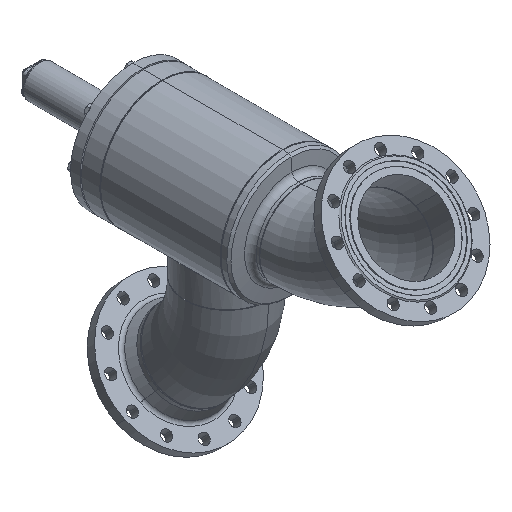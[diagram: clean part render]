
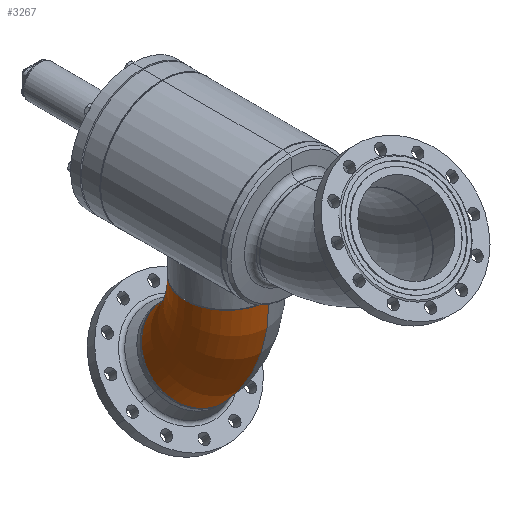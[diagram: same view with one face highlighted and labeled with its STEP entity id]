
A CAD part, isometric view. The second image highlights one B-rep face of the part: STEP entity #3267.
In plain terms, the highlighted toroidal (fillet/blend) face has major radius 305 mm and minor radius 109.55 mm.
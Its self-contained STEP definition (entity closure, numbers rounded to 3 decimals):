
#567 = CIRCLE ( 'NONE', #568, 195.45 ) ;
#568 = AXIS2_PLACEMENT_3D ( 'NONE', #569, #570, #571 ) ;
#569 = CARTESIAN_POINT ( 'NONE',  ( 0., -305., 0. ) ) ;
#570 = DIRECTION ( 'NONE',  ( 0., 0., 1. ) ) ;
#571 = DIRECTION ( 'NONE',  ( 1., 0., 0. ) ) ;
#1267 = FACE_OUTER_BOUND ( 'NONE', #12686, .T. ) ;
#1268 = TOROIDAL_SURFACE ( 'NONE', #1269, 305., 109.55 ) ;
#1269 = AXIS2_PLACEMENT_3D ( 'NONE', #1270, #1271, #1272 ) ;
#1270 = CARTESIAN_POINT ( 'NONE',  ( 0., -305., 0. ) ) ;
#1271 = DIRECTION ( 'NONE',  ( 0., 0., 1. ) ) ;
#1272 = DIRECTION ( 'NONE',  ( 1., 0., 0. ) ) ;
#2264 = CARTESIAN_POINT ( 'NONE',  ( 0., -109.55, 0. ) ) ;
#2872 = EDGE_CURVE ( 'NONE', #15804, #13497, #567, .T. ) ;
#3267 = ADVANCED_FACE ( 'NONE', ( #1267 ), #1268, .T. ) ;
#21553 = CIRCLE ( 'NONE', #21572, 109.55 ) ;
#21572 = AXIS2_PLACEMENT_3D ( 'NONE', #21573, #21574, #21575 ) ;
#21573 = CARTESIAN_POINT ( 'NONE',  ( 215.668, -89.332, 0. ) ) ;
#21574 = DIRECTION ( 'NONE',  ( 0.707, -0.707, 0. ) ) ;
#21575 = DIRECTION ( 'NONE',  ( 0., 0., -1. ) ) ;
#8575 = CARTESIAN_POINT ( 'NONE',  ( 0., 109.55, 0. ) ) ;
#8819 = CIRCLE ( 'NONE', #8820, 414.55 ) ;
#8820 = AXIS2_PLACEMENT_3D ( 'NONE', #8821, #8822, #8823 ) ;
#8821 = CARTESIAN_POINT ( 'NONE',  ( 0., -305., 0. ) ) ;
#8822 = DIRECTION ( 'NONE',  ( 0., 0., 1. ) ) ;
#8823 = DIRECTION ( 'NONE',  ( 1., 0., 0. ) ) ;
#9796 = EDGE_CURVE ( 'NONE', #13497, #14651, #15461, .T. ) ;
#10176 = ORIENTED_EDGE ( 'NONE', *, *, #9796, .T. ) ;
#10366 = CARTESIAN_POINT ( 'NONE',  ( 138.204, -166.796, 0. ) ) ;
#10690 = CARTESIAN_POINT ( 'NONE',  ( 293.131, -11.869, 0. ) ) ;
#10714 = ORIENTED_EDGE ( 'NONE', *, *, #2872, .T. ) ;
#11244 = EDGE_CURVE ( 'NONE', #15804, #16031, #21553, .T. ) ;
#11618 = ORIENTED_EDGE ( 'NONE', *, *, #11244, .F. ) ;
#12158 = ORIENTED_EDGE ( 'NONE', *, *, #14881, .F. ) ;
#12686 = EDGE_LOOP ( 'NONE', ( #12158, #11618, #10714, #10176 ) ) ;
#13497 = VERTEX_POINT ( 'NONE', #2264 ) ;
#14651 = VERTEX_POINT ( 'NONE', #8575 ) ;
#14881 = EDGE_CURVE ( 'NONE', #16031, #14651, #8819, .T. ) ;
#15461 = CIRCLE ( 'NONE', #15462, 109.55 ) ;
#15462 = AXIS2_PLACEMENT_3D ( 'NONE', #15463, #15464, #15465 ) ;
#15463 = CARTESIAN_POINT ( 'NONE',  ( 0., 0., 0. ) ) ;
#15464 = DIRECTION ( 'NONE',  ( 1., 0., 0. ) ) ;
#15465 = DIRECTION ( 'NONE',  ( 0., 0., -1. ) ) ;
#15804 = VERTEX_POINT ( 'NONE', #10366 ) ;
#16031 = VERTEX_POINT ( 'NONE', #10690 ) ;
